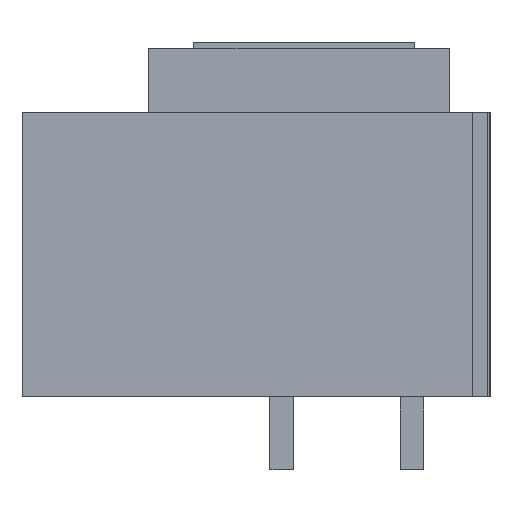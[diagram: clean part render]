
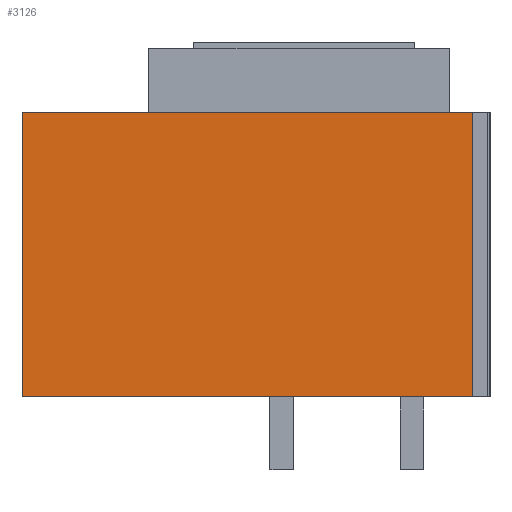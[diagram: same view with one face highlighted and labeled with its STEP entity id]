
A CAD part, left-side view. The second image highlights one B-rep face of the part: STEP entity #3126.
In plain terms, the highlighted planar face has unit normal (-1, 0, 0).
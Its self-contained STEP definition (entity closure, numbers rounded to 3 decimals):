
#131 = VERTEX_POINT ( 'NONE', #7522 ) ;
#362 = CARTESIAN_POINT ( 'NONE',  ( -254., 15., -244.5 ) ) ;
#1268 = ORIENTED_EDGE ( 'NONE', *, *, #26374, .T. ) ;
#1754 = DIRECTION ( 'NONE',  ( 0., -1., 0. ) ) ;
#2294 = LINE ( 'NONE', #23631, #15746 ) ;
#3126 = ADVANCED_FACE ( 'NONE', ( #35025 ), #13525, .T. ) ;
#4931 = ORIENTED_EDGE ( 'NONE', *, *, #21226, .T. ) ;
#5288 = DIRECTION ( 'NONE',  ( 0., -1., 0. ) ) ;
#6269 = VERTEX_POINT ( 'NONE', #362 ) ;
#6445 = DIRECTION ( 'NONE',  ( 0., 0., 1. ) ) ;
#7255 = CARTESIAN_POINT ( 'NONE',  ( -254., 15., -244.5 ) ) ;
#7364 = DIRECTION ( 'NONE',  ( 0., -1., 0. ) ) ;
#7522 = CARTESIAN_POINT ( 'NONE',  ( -254., 402., 0. ) ) ;
#10778 = VECTOR ( 'NONE', #6445, 1000. ) ;
#12940 = LINE ( 'NONE', #26326, #10778 ) ;
#13525 = PLANE ( 'NONE',  #23723 ) ;
#13909 = DIRECTION ( 'NONE',  ( -1., 0., 0. ) ) ;
#15746 = VECTOR ( 'NONE', #7364, 1000. ) ;
#16553 = EDGE_CURVE ( 'NONE', #131, #23093, #2294, .T. ) ;
#18047 = DIRECTION ( 'NONE',  ( 0., 0., 1. ) ) ;
#18517 = CARTESIAN_POINT ( 'NONE',  ( -254., 0., -244.5 ) ) ;
#19519 = CARTESIAN_POINT ( 'NONE',  ( -254., 0., -244.5 ) ) ;
#21226 = EDGE_CURVE ( 'NONE', #26372, #6269, #34374, .T. ) ;
#22335 = ORIENTED_EDGE ( 'NONE', *, *, #23809, .F. ) ;
#23093 = VERTEX_POINT ( 'NONE', #25212 ) ;
#23631 = CARTESIAN_POINT ( 'NONE',  ( -254., 0., 0. ) ) ;
#23723 = AXIS2_PLACEMENT_3D ( 'NONE', #19519, #13909, #5288 ) ;
#23809 = EDGE_CURVE ( 'NONE', #26372, #131, #12940, .T. ) ;
#24701 = ORIENTED_EDGE ( 'NONE', *, *, #16553, .F. ) ;
#25212 = CARTESIAN_POINT ( 'NONE',  ( -254., 15., 0. ) ) ;
#26090 = VECTOR ( 'NONE', #1754, 1000. ) ;
#26326 = CARTESIAN_POINT ( 'NONE',  ( -254., 402., -244.5 ) ) ;
#26372 = VERTEX_POINT ( 'NONE', #26805 ) ;
#26374 = EDGE_CURVE ( 'NONE', #6269, #23093, #27896, .T. ) ;
#26805 = CARTESIAN_POINT ( 'NONE',  ( -254., 402., -244.5 ) ) ;
#27896 = LINE ( 'NONE', #7255, #31794 ) ;
#30894 = EDGE_LOOP ( 'NONE', ( #24701, #22335, #4931, #1268 ) ) ;
#31794 = VECTOR ( 'NONE', #18047, 1000. ) ;
#34374 = LINE ( 'NONE', #18517, #26090 ) ;
#35025 = FACE_OUTER_BOUND ( 'NONE', #30894, .T. ) ;
